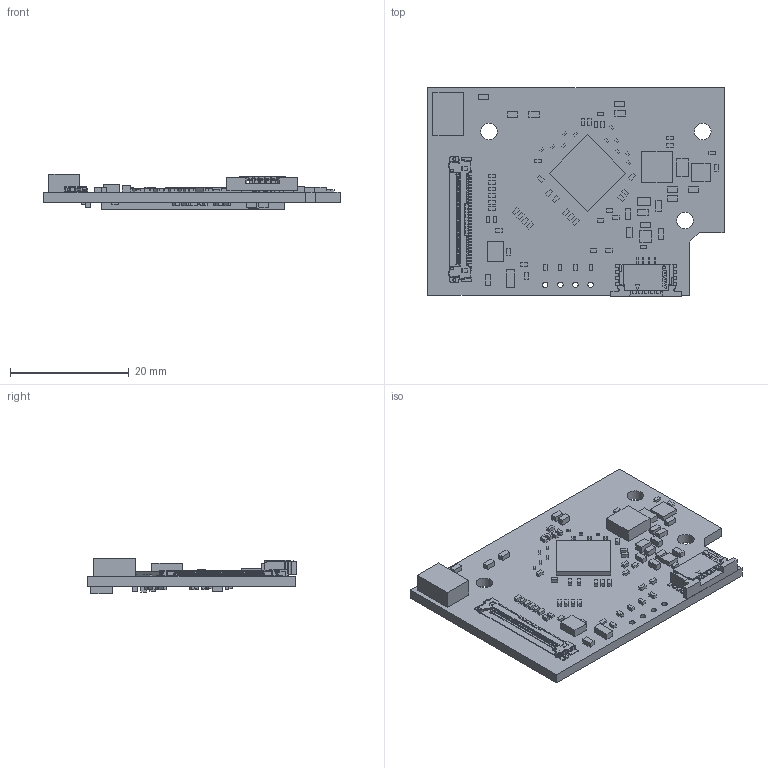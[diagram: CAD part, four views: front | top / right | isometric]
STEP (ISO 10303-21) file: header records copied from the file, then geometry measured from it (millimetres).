
FILE_DESCRIPTION(('Open CASCADE Model'),'2;1');
FILE_NAME('Open CASCADE Shape Model','2014-03-27T23:20:07',('Author'),( 'Open CASCADE'),'Open CASCADE STEP processor 6.2','Open CASCADE 6.2' ,'Unknown');
FILE_SCHEMA(('AUTOMOTIVE_DESIGN { 1 0 10303 214 1 1 1 1 }'));
Length unit declared in the file: millimetre
Products named in the file (149): PCB; BoardeDP_adapter_dvt1; R31CeDP_adapter_dvt1; 1055123600; Extruded; R30CeDP_adapter_dvt1; R29CeDP_adapter_dvt1; C51CeDP_adapter_dvt1; 1055123472; C50CeDP_adapter_dvt1; 1055124880; U11PeDP_adapter_dvt1; 1055123344; U11CeDP_adapter_dvt1; 1055123856; U10PeDP_adapter_dvt1; 1055122192; U10CeDP_adapter_dvt1; 1055124496; R28CeDP_adapter_dvt1; R27CeDP_adapter_dvt1; R26CeDP_adapter_dvt1; R25CeDP_adapter_dvt1; 1055123984; R24CeDP_adapter_dvt1; R23CeDP_adapter_dvt1; 1055125648; R22CeDP_adapter_dvt1; 1055125264; R21CeDP_adapter_dvt1; R20CeDP_adapter_dvt1; R19CeDP_adapter_dvt1; R18CeDP_adapter_dvt1; R17CeDP_adapter_dvt1; R16CeDP_adapter_dvt1; R15CeDP_adapter_dvt1; 1055125136; R14CeDP_adapter_dvt1; R13CeDP_adapter_dvt1; R12CeDP_adapter_dvt1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
Assembly tree (222 placements, depth 4):
  PCB
    BoardeDP_adapter_dvt1
    R31CeDP_adapter_dvt1
      1055123600
        Extruded
    R30CeDP_adapter_dvt1
      1055123600
        Extruded
    R29CeDP_adapter_dvt1
      1055123600
        Extruded
    C51CeDP_adapter_dvt1
      1055123472
        Extruded
    C50CeDP_adapter_dvt1
      1055124880
        Extruded
    U11PeDP_adapter_dvt1
      1055123344
        Extruded
    U11CeDP_adapter_dvt1
      1055123856
        Extruded
    U10PeDP_adapter_dvt1
      1055122192
        Extruded
    U10CeDP_adapter_dvt1
      1055124496
        Extruded
    R28CeDP_adapter_dvt1
      1055123600
        Extruded
    R27CeDP_adapter_dvt1
      1055123600
        Extruded
    R26CeDP_adapter_dvt1
      1055123600
        Extruded
    R25CeDP_adapter_dvt1
      1055123984
        Extruded
    R24CeDP_adapter_dvt1
      1055123600
        Extruded
    R23CeDP_adapter_dvt1
      1055125648
        Extruded
    R22CeDP_adapter_dvt1
      1055125264
        Extruded
    R21CeDP_adapter_dvt1
      1055125264
        Extruded
    R20CeDP_adapter_dvt1
      1055125264
        Extruded
    R19CeDP_adapter_dvt1
      1055125264
        Extruded
    R18CeDP_adapter_dvt1
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Bounding box: 49.9 x 35.15 x 6.04 mm (x, y, z)
Volume: 3424.7 mm3; surface area: 5701.2 mm2
Topology: 100 solids, 100 shells, 2253 faces, 5879 edges, 3863 vertices
Faces by surface type: plane 1858, cylinder 375, sphere 16, extrusion 4
Full cylindrical faces by diameter (mm): 0.9 x4, 2.8 x3
Entity records: 130764 total; most frequent: CARTESIAN_POINT 29923, DIRECTION 17775, VECTOR 11903, LINE 11899, ORIENTED_EDGE 9982, PCURVE 9982, DEFINITIONAL_REPRESENTATION 9982, EDGE_CURVE 4991
